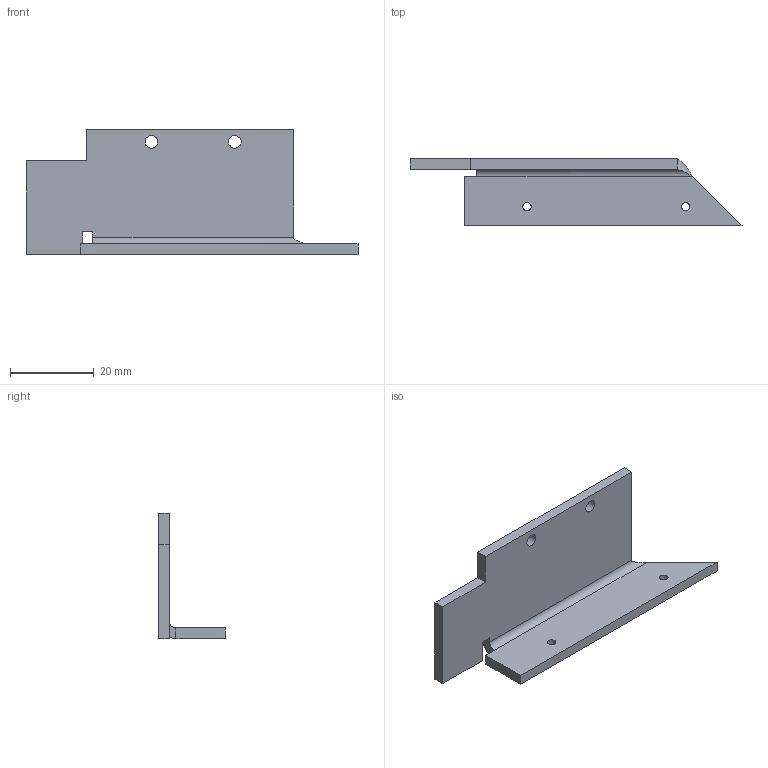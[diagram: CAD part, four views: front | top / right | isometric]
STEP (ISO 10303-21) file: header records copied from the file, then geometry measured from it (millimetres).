
FILE_DESCRIPTION(/* description */ (''),/* implementation_level */ '2;1');
FILE_NAME(/* name */ 'C:\Users\strothej\Documents\ActualDocuments\MicroscopeParts\TwoPhotonSystem\ScanningMechanics\v34\Drawings\Enclosure_PMT_Panel2.stp',/* time_stamp */ '2017-09-18T12:56:05-07:00',/* author */ ('strothej'),/* organization */ (''),/* preprocessor_version */ 'ST-DEVELOPER v16.1',/* originating_system */ 'Autodesk Inventor 2016',/* authorisation */ '');
FILE_SCHEMA (('AUTOMOTIVE_DESIGN { 1 0 10303 214 3 1 1 }'));
Length unit declared in the file: millimetre
Products named in the file (1): Enclosure_PMT_Panel2
Bounding box: 79.48 x 16 x 30 mm (x, y, z)
Volume: 6524.7 mm3; surface area: 5770.6 mm2
Topology: 1 solids, 1 shells, 26 faces, 67 edges, 43 vertices
Faces by surface type: plane 19, cylinder 6, bspline 1
Full cylindrical faces by diameter (mm): 2.013 x2, 3 x2
Entity records: 809 total; most frequent: CARTESIAN_POINT 160, DIRECTION 123, ORIENTED_EDGE 122, EDGE_CURVE 61, LINE 47, VECTOR 47, VERTEX_POINT 41, EDGE_LOOP 38
